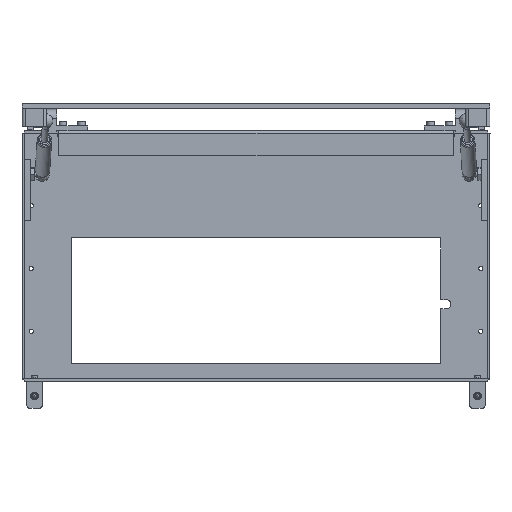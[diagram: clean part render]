
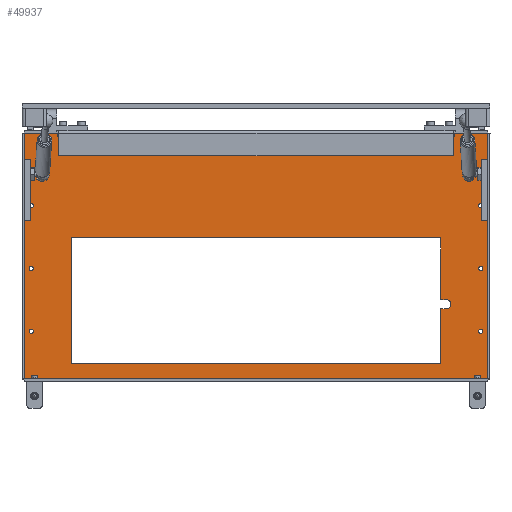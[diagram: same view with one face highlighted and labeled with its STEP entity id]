
A CAD part, top view. The second image highlights one B-rep face of the part: STEP entity #49937.
In plain terms, the highlighted planar face has unit normal (0, 0, 1) by its records, which use the part's own axes.
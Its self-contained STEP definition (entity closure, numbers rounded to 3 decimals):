
#2500=LINE($,#69739,#5952);
#2584=LINE($,#69975,#6036);
#2606=LINE($,#70030,#6058);
#2610=LINE($,#70045,#6062);
#2701=LINE($,#70298,#6153);
#2702=LINE($,#70300,#6154);
#2703=LINE($,#70302,#6155);
#2704=LINE($,#70304,#6156);
#2705=LINE($,#70306,#6157);
#2706=LINE($,#70308,#6158);
#2707=LINE($,#70309,#6159);
#5952=VECTOR($,#57397,9.981);
#6036=VECTOR($,#57559,18.818);
#6058=VECTOR($,#57605,18.818);
#6062=VECTOR($,#57621,9.981);
#6153=VECTOR($,#57804,0.227);
#6154=VECTOR($,#57805,2.235);
#6155=VECTOR($,#57806,15.);
#6156=VECTOR($,#57807,5.12);
#6157=VECTOR($,#57808,15.);
#6158=VECTOR($,#57809,2.511);
#6159=VECTOR($,#57810,0.227);
#9666=PLANE($,#52935);
#11389=FACE_BOUND($,#14849,.T.);
#11390=FACE_BOUND($,#14850,.T.);
#11391=FACE_BOUND($,#14851,.T.);
#11392=FACE_BOUND($,#14852,.T.);
#11393=FACE_BOUND($,#14853,.T.);
#11394=FACE_BOUND($,#14854,.T.);
#11395=FACE_BOUND($,#14855,.T.);
#11396=FACE_BOUND($,#14856,.T.);
#14849=EDGE_LOOP($,(#32377));
#14850=EDGE_LOOP($,(#32378));
#14851=EDGE_LOOP($,(#32379));
#14852=EDGE_LOOP($,(#32380));
#14853=EDGE_LOOP($,(#32381));
#14854=EDGE_LOOP($,(#32382));
#14855=EDGE_LOOP($,(#32383,#32384,#32385,#32386,#32387,#32388,#32389,#32390));
#14856=EDGE_LOOP($,(#32391,#32392,#32393,#32394));
#18127=CIRCLE($,#52936,0.089);
#18128=CIRCLE($,#52937,0.089);
#18129=CIRCLE($,#52938,0.089);
#18130=CIRCLE($,#52939,0.089);
#18131=CIRCLE($,#52940,0.089);
#18132=CIRCLE($,#52941,0.089);
#18133=CIRCLE($,#52942,0.188);
#19672=VERTEX_POINT($,#69736);
#19673=VERTEX_POINT($,#69738);
#19786=VERTEX_POINT($,#69974);
#19807=VERTEX_POINT($,#70028);
#19920=VERTEX_POINT($,#70282);
#19921=VERTEX_POINT($,#70284);
#19922=VERTEX_POINT($,#70286);
#19923=VERTEX_POINT($,#70288);
#19924=VERTEX_POINT($,#70290);
#19925=VERTEX_POINT($,#70292);
#19926=VERTEX_POINT($,#70294);
#19927=VERTEX_POINT($,#70295);
#19928=VERTEX_POINT($,#70297);
#19929=VERTEX_POINT($,#70299);
#19930=VERTEX_POINT($,#70301);
#19931=VERTEX_POINT($,#70303);
#19932=VERTEX_POINT($,#70305);
#19933=VERTEX_POINT($,#70307);
#24679=EDGE_CURVE($,#19673,#19672,#2500,.T.);
#24797=EDGE_CURVE($,#19786,#19673,#2584,.T.);
#24826=EDGE_CURVE($,#19672,#19807,#2606,.T.);
#24834=EDGE_CURVE($,#19807,#19786,#2610,.T.);
#24953=EDGE_CURVE($,#19920,#19920,#18127,.T.);
#24954=EDGE_CURVE($,#19921,#19921,#18128,.T.);
#24955=EDGE_CURVE($,#19922,#19922,#18129,.T.);
#24956=EDGE_CURVE($,#19923,#19923,#18130,.T.);
#24957=EDGE_CURVE($,#19924,#19924,#18131,.T.);
#24958=EDGE_CURVE($,#19925,#19925,#18132,.T.);
#24959=EDGE_CURVE($,#19926,#19927,#18133,.T.);
#24960=EDGE_CURVE($,#19927,#19928,#2701,.T.);
#24961=EDGE_CURVE($,#19928,#19929,#2702,.T.);
#24962=EDGE_CURVE($,#19929,#19930,#2703,.T.);
#24963=EDGE_CURVE($,#19930,#19931,#2704,.T.);
#24964=EDGE_CURVE($,#19931,#19932,#2705,.T.);
#24965=EDGE_CURVE($,#19932,#19933,#2706,.T.);
#24966=EDGE_CURVE($,#19933,#19926,#2707,.T.);
#32377=ORIENTED_EDGE($,*,*,#24953,.T.);
#32378=ORIENTED_EDGE($,*,*,#24954,.T.);
#32379=ORIENTED_EDGE($,*,*,#24955,.T.);
#32380=ORIENTED_EDGE($,*,*,#24956,.T.);
#32381=ORIENTED_EDGE($,*,*,#24957,.T.);
#32382=ORIENTED_EDGE($,*,*,#24958,.T.);
#32383=ORIENTED_EDGE($,*,*,#24959,.T.);
#32384=ORIENTED_EDGE($,*,*,#24960,.T.);
#32385=ORIENTED_EDGE($,*,*,#24961,.T.);
#32386=ORIENTED_EDGE($,*,*,#24962,.T.);
#32387=ORIENTED_EDGE($,*,*,#24963,.T.);
#32388=ORIENTED_EDGE($,*,*,#24964,.T.);
#32389=ORIENTED_EDGE($,*,*,#24965,.T.);
#32390=ORIENTED_EDGE($,*,*,#24966,.T.);
#32391=ORIENTED_EDGE($,*,*,#24797,.T.);
#32392=ORIENTED_EDGE($,*,*,#24679,.T.);
#32393=ORIENTED_EDGE($,*,*,#24826,.T.);
#32394=ORIENTED_EDGE($,*,*,#24834,.T.);
#49937=ADVANCED_FACE($,(#11389,#11390,#11391,#11392,#11393,#11394,#11395,
#11396),#9666,.F.);
#52935=AXIS2_PLACEMENT_3D($,#70281,#57788,#57789);
#52936=AXIS2_PLACEMENT_3D($,#70283,#57790,#57791);
#52937=AXIS2_PLACEMENT_3D($,#70285,#57792,#57793);
#52938=AXIS2_PLACEMENT_3D($,#70287,#57794,#57795);
#52939=AXIS2_PLACEMENT_3D($,#70289,#57796,#57797);
#52940=AXIS2_PLACEMENT_3D($,#70291,#57798,#57799);
#52941=AXIS2_PLACEMENT_3D($,#70293,#57800,#57801);
#52942=AXIS2_PLACEMENT_3D($,#70296,#57802,#57803);
#57397=DIRECTION($,(0.,1.,0.));
#57559=DIRECTION($,(1.,0.,0.));
#57605=DIRECTION($,(-1.,0.,0.));
#57621=DIRECTION($,(0.,-1.,0.));
#57788=DIRECTION('center_axis',(0.,0.,
-1.));
#57789=DIRECTION('ref_axis',(1.,0.,0.));
#57790=DIRECTION('center_axis',(0.,0.,
-1.));
#57791=DIRECTION('ref_axis',(1.,0.,0.));
#57792=DIRECTION('center_axis',(0.,0.,
-1.));
#57793=DIRECTION('ref_axis',(1.,0.,0.));
#57794=DIRECTION('center_axis',(0.,0.,
-1.));
#57795=DIRECTION('ref_axis',(1.,0.,0.));
#57796=DIRECTION('center_axis',(0.,0.,
-1.));
#57797=DIRECTION('ref_axis',(1.,0.,0.));
#57798=DIRECTION('center_axis',(0.,0.,
-1.));
#57799=DIRECTION('ref_axis',(1.,0.,0.));
#57800=DIRECTION('center_axis',(0.,0.,
-1.));
#57801=DIRECTION('ref_axis',(1.,0.,0.));
#57802=DIRECTION('center_axis',(0.,0.,
-1.));
#57803=DIRECTION('ref_axis',(0.,1.,0.));
#57804=DIRECTION($,(-1.,0.,0.));
#57805=DIRECTION($,(0.,-1.,0.));
#57806=DIRECTION($,(-1.,0.,0.));
#57807=DIRECTION($,(0.,1.,0.));
#57808=DIRECTION($,(1.,0.,0.));
#57809=DIRECTION($,(0.,-1.,0.));
#57810=DIRECTION($,(1.,0.,0.));
#69736=CARTESIAN_POINT('',(18.909,-0.989,-1.086));
#69738=CARTESIAN_POINT('',(18.909,-10.97,-1.086));
#69739=CARTESIAN_POINT($,(18.909,-8.02,-1.086));
#69974=CARTESIAN_POINT('',(0.091,-10.97,-1.086));
#69975=CARTESIAN_POINT($,(5.25,-10.97,-1.086));
#70028=CARTESIAN_POINT('',(0.091,-0.989,-1.086));
#70030=CARTESIAN_POINT($,(13.75,-0.989,-1.086));
#70045=CARTESIAN_POINT($,(0.091,-3.939,-1.086));
#70281=CARTESIAN_POINT('Origin',(9.5,-5.98,-1.086));
#70282=CARTESIAN_POINT('',(0.286,-6.479,-1.086));
#70283=CARTESIAN_POINT('Origin',(0.375,-6.479,-1.086));
#70284=CARTESIAN_POINT('',(18.536,-3.929,-1.086));
#70285=CARTESIAN_POINT('Origin',(18.625,-3.929,-1.086));
#70286=CARTESIAN_POINT('',(0.286,-9.029,-1.086));
#70287=CARTESIAN_POINT('Origin',(0.375,-9.029,-1.086));
#70288=CARTESIAN_POINT('',(18.536,-9.029,-1.086));
#70289=CARTESIAN_POINT('Origin',(18.625,-9.029,-1.086));
#70290=CARTESIAN_POINT('',(18.536,-6.479,-1.086));
#70291=CARTESIAN_POINT('Origin',(18.625,-6.479,-1.086));
#70292=CARTESIAN_POINT('',(0.286,-3.929,-1.086));
#70293=CARTESIAN_POINT('Origin',(0.375,-3.929,-1.086));
#70294=CARTESIAN_POINT('',(17.227,-7.749,-1.086));
#70295=CARTESIAN_POINT('',(17.227,-8.124,-1.086));
#70296=CARTESIAN_POINT('Origin',(17.227,-7.936,-1.086));
#70297=CARTESIAN_POINT('',(17.,-8.124,-1.086));
#70298=CARTESIAN_POINT($,(13.363,-8.124,-1.086));
#70299=CARTESIAN_POINT('',(17.,-10.358,-1.086));
#70300=CARTESIAN_POINT($,(17.,-7.052,-1.086));
#70301=CARTESIAN_POINT('',(2.,-10.358,-1.086));
#70302=CARTESIAN_POINT($,(13.25,-10.358,-1.086));
#70303=CARTESIAN_POINT('',(2.,-5.238,-1.086));
#70304=CARTESIAN_POINT($,(2.,-8.169,-1.086));
#70305=CARTESIAN_POINT('',(17.,-5.238,-1.086));
#70306=CARTESIAN_POINT($,(5.75,-5.238,-1.086));
#70307=CARTESIAN_POINT('',(17.,-7.749,-1.086));
#70308=CARTESIAN_POINT($,(17.,-7.052,-1.086));
#70309=CARTESIAN_POINT($,(13.25,-7.749,-1.086));
